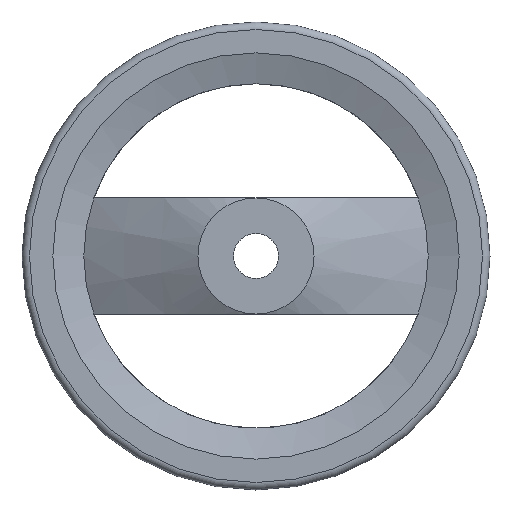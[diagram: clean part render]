
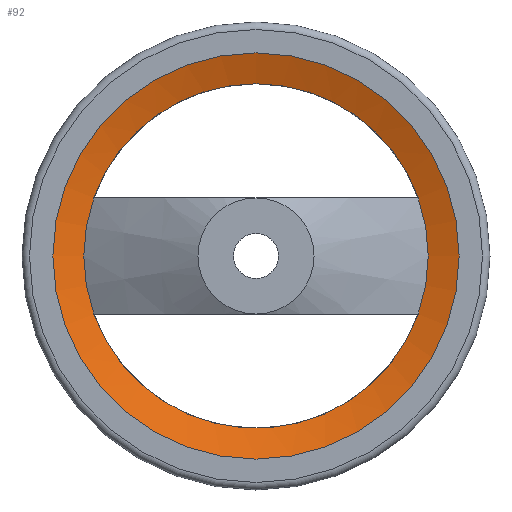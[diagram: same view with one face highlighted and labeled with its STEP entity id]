
A CAD part, left-side view. The second image highlights one B-rep face of the part: STEP entity #92.
In plain terms, the highlighted conical face has half-angle 70.918 degrees and reference radius 46 mm.
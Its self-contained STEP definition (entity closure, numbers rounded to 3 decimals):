
#92 = ADVANCED_FACE( '', ( #141, #142 ), #143, .F. );
#141 = FACE_OUTER_BOUND( '', #192, .T. );
#142 = FACE_BOUND( '', #193, .T. );
#143 = CONICAL_SURFACE( '', #194, 46., 1.238 );
#192 = EDGE_LOOP( '', ( #305 ) );
#193 = EDGE_LOOP( '', ( #306, #307, #308, #309 ) );
#194 = AXIS2_PLACEMENT_3D( '', #310, #311, #312 );
#305 = ORIENTED_EDGE( '', *, *, #344, .T. );
#306 = ORIENTED_EDGE( '', *, *, #332, .F. );
#307 = ORIENTED_EDGE( '', *, *, #350, .T. );
#308 = ORIENTED_EDGE( '', *, *, #338, .F. );
#309 = ORIENTED_EDGE( '', *, *, #349, .T. );
#310 = CARTESIAN_POINT( '', ( 20.854, 0., 0. ) );
#311 = DIRECTION( '', ( -1., 0., 0. ) );
#312 = DIRECTION( '', ( 0., 0., 1. ) );
#332 = EDGE_CURVE( '', #360, #366, #377, .T. );
#338 = EDGE_CURVE( '', #372, #354, #386, .T. );
#344 = EDGE_CURVE( '', #395, #395, #396, .T. );
#349 = EDGE_CURVE( '', #372, #366, #404, .F. );
#350 = EDGE_CURVE( '', #360, #354, #405, .F. );
#354 = VERTEX_POINT( '', #410 );
#360 = VERTEX_POINT( '', #451 );
#366 = VERTEX_POINT( '', #494 );
#372 = VERTEX_POINT( '', #535 );
#377 = CIRCLE( '', #577, 46. );
#386 = CIRCLE( '', #586, 46. );
#395 = VERTEX_POINT( '', #595 );
#396 = CIRCLE( '', #596, 54.25 );
#404 = CIRCLE( '', #604, 46. );
#405 = CIRCLE( '', #605, 46. );
#410 = CARTESIAN_POINT( '', ( 20.854, 43.31, -15.5 ) );
#451 = CARTESIAN_POINT( '', ( 20.854, -43.31, -15.5 ) );
#494 = CARTESIAN_POINT( '', ( 20.854, -43.31, 15.5 ) );
#535 = CARTESIAN_POINT( '', ( 20.854, 43.31, 15.5 ) );
#577 = AXIS2_PLACEMENT_3D( '', #613, #614, #615 );
#586 = AXIS2_PLACEMENT_3D( '', #631, #632, #633 );
#595 = CARTESIAN_POINT( '', ( 18., 0., 54.25 ) );
#596 = AXIS2_PLACEMENT_3D( '', #649, #650, #651 );
#604 = AXIS2_PLACEMENT_3D( '', #664, #665, #666 );
#605 = AXIS2_PLACEMENT_3D( '', #667, #668, #669 );
#613 = CARTESIAN_POINT( '', ( 20.854, 0., 0. ) );
#614 = DIRECTION( '', ( -1., 0., 0. ) );
#615 = DIRECTION( '', ( 0., 0., 1. ) );
#631 = CARTESIAN_POINT( '', ( 20.854, 0., 0. ) );
#632 = DIRECTION( '', ( -1., 0., 0. ) );
#633 = DIRECTION( '', ( 0., 0., 1. ) );
#649 = CARTESIAN_POINT( '', ( 18., 0., 0. ) );
#650 = DIRECTION( '', ( -1., 0., 0. ) );
#651 = DIRECTION( '', ( 0., 0., 1. ) );
#664 = CARTESIAN_POINT( '', ( 20.854, 0., 0. ) );
#665 = DIRECTION( '', ( -1., 0., 0. ) );
#666 = DIRECTION( '', ( 0., 0., 1. ) );
#667 = CARTESIAN_POINT( '', ( 20.854, 0., 0. ) );
#668 = DIRECTION( '', ( -1., 0., 0. ) );
#669 = DIRECTION( '', ( 0., 0., 1. ) );
